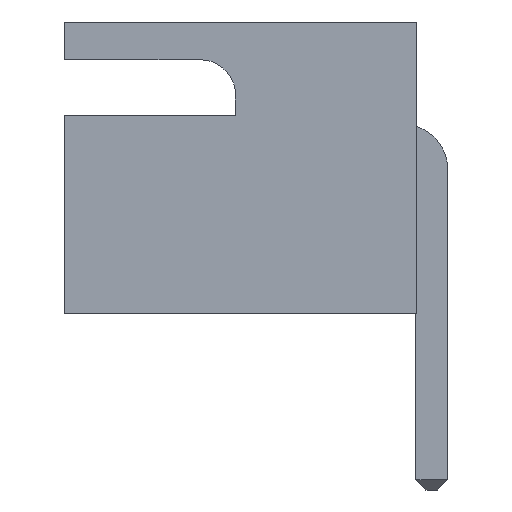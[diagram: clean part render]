
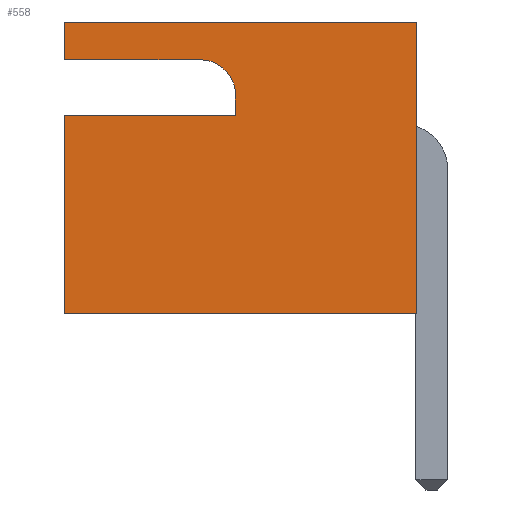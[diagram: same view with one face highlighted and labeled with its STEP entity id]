
A CAD part, left-side view. The second image highlights one B-rep face of the part: STEP entity #558.
In plain terms, the highlighted planar face has unit normal (-1, 0, 0).
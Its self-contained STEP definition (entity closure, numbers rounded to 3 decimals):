
#52 = ORIENTED_EDGE ( 'NONE', *, *, #2061, .F. ) ;
#341 = EDGE_CURVE ( 'NONE', #1587, #6786, #8000, .T. ) ;
#408 = DIRECTION ( 'NONE',  ( 0., 0., -1. ) ) ;
#518 = DIRECTION ( 'NONE',  ( 0., 1., 0. ) ) ;
#558 = ADVANCED_FACE ( 'NONE', ( #5979 ), #6561, .F. ) ;
#582 = CARTESIAN_POINT ( 'NONE',  ( -6.261, -4.011, 2.9 ) ) ;
#718 = AXIS2_PLACEMENT_3D ( 'NONE', #2449, #8464, #3728 ) ;
#878 = CARTESIAN_POINT ( 'NONE',  ( -6.261, 2.989, -2.9 ) ) ;
#976 = VERTEX_POINT ( 'NONE', #4726 ) ;
#1031 = LINE ( 'NONE', #4954, #5641 ) ;
#1063 = CARTESIAN_POINT ( 'NONE',  ( -6.261, -4.011, 2.9 ) ) ;
#1228 = CARTESIAN_POINT ( 'NONE',  ( -6.261, 2.989, 2.9 ) ) ;
#1587 = VERTEX_POINT ( 'NONE', #878 ) ;
#1620 = DIRECTION ( 'NONE',  ( 0., 0., 1. ) ) ;
#1700 = CARTESIAN_POINT ( 'NONE',  ( -6.261, 2.989, 1.05 ) ) ;
#1957 = VERTEX_POINT ( 'NONE', #7571 ) ;
#2061 = EDGE_CURVE ( 'NONE', #2130, #6124, #7001, .T. ) ;
#2078 = VECTOR ( 'NONE', #518, 1000. ) ;
#2108 = EDGE_CURVE ( 'NONE', #5640, #1957, #4652, .T. ) ;
#2130 = VERTEX_POINT ( 'NONE', #4697 ) ;
#2243 = EDGE_CURVE ( 'NONE', #976, #1957, #6725, .T. ) ;
#2381 = EDGE_LOOP ( 'NONE', ( #4901, #8181, #3275, #3907, #52, #4151, #2626, #7674, #3865 ) ) ;
#2449 = CARTESIAN_POINT ( 'NONE',  ( -6.261, 0.289, 1.45 ) ) ;
#2626 = ORIENTED_EDGE ( 'NONE', *, *, #341, .T. ) ;
#2732 = CARTESIAN_POINT ( 'NONE',  ( -6.261, -0.411, 1.45 ) ) ;
#2995 = EDGE_CURVE ( 'NONE', #3995, #6786, #7112, .T. ) ;
#3058 = DIRECTION ( 'NONE',  ( 0., -1., 0. ) ) ;
#3252 = LINE ( 'NONE', #1228, #7215 ) ;
#3254 = EDGE_CURVE ( 'NONE', #7623, #5640, #7064, .T. ) ;
#3275 = ORIENTED_EDGE ( 'NONE', *, *, #3254, .F. ) ;
#3366 = CARTESIAN_POINT ( 'NONE',  ( -6.261, -0.411, 1.05 ) ) ;
#3395 = VECTOR ( 'NONE', #1620, 1000. ) ;
#3495 = CARTESIAN_POINT ( 'NONE',  ( -6.261, 2.989, 2.9 ) ) ;
#3621 = VECTOR ( 'NONE', #5824, 1000. ) ;
#3728 = DIRECTION ( 'NONE',  ( 0., 1., 0. ) ) ;
#3865 = ORIENTED_EDGE ( 'NONE', *, *, #5624, .F. ) ;
#3907 = ORIENTED_EDGE ( 'NONE', *, *, #5534, .F. ) ;
#3995 = VERTEX_POINT ( 'NONE', #582 ) ;
#4151 = ORIENTED_EDGE ( 'NONE', *, *, #6259, .T. ) ;
#4652 = LINE ( 'NONE', #7309, #2078 ) ;
#4697 = CARTESIAN_POINT ( 'NONE',  ( -6.261, 2.989, 1.05 ) ) ;
#4726 = CARTESIAN_POINT ( 'NONE',  ( -6.261, 2.989, 2.9 ) ) ;
#4736 = DIRECTION ( 'NONE',  ( 0., 0., -1. ) ) ;
#4901 = ORIENTED_EDGE ( 'NONE', *, *, #2243, .T. ) ;
#4954 = CARTESIAN_POINT ( 'NONE',  ( -6.261, 2.989, 2.9 ) ) ;
#4975 = LINE ( 'NONE', #7671, #3395 ) ;
#5093 = DIRECTION ( 'NONE',  ( 0., 0., -1. ) ) ;
#5182 = VECTOR ( 'NONE', #3058, 1000. ) ;
#5534 = EDGE_CURVE ( 'NONE', #6124, #7623, #4975, .T. ) ;
#5624 = EDGE_CURVE ( 'NONE', #976, #3995, #3252, .T. ) ;
#5640 = VERTEX_POINT ( 'NONE', #8034 ) ;
#5641 = VECTOR ( 'NONE', #5093, 1000. ) ;
#5782 = VECTOR ( 'NONE', #408, 1000. ) ;
#5824 = DIRECTION ( 'NONE',  ( 0., -1., 0. ) ) ;
#5979 = FACE_OUTER_BOUND ( 'NONE', #2381, .T. ) ;
#6124 = VERTEX_POINT ( 'NONE', #3366 ) ;
#6259 = EDGE_CURVE ( 'NONE', #2130, #1587, #1031, .T. ) ;
#6561 = PLANE ( 'NONE',  #7727 ) ;
#6565 = DIRECTION ( 'NONE',  ( 0., -1., 0. ) ) ;
#6691 = DIRECTION ( 'NONE',  ( 1., 0., 0. ) ) ;
#6725 = LINE ( 'NONE', #3495, #8409 ) ;
#6786 = VERTEX_POINT ( 'NONE', #8739 ) ;
#7001 = LINE ( 'NONE', #1700, #5182 ) ;
#7064 = CIRCLE ( 'NONE', #718, 0.7 ) ;
#7112 = LINE ( 'NONE', #1063, #5782 ) ;
#7215 = VECTOR ( 'NONE', #6565, 1000. ) ;
#7234 = DIRECTION ( 'NONE',  ( 0., 1., 0. ) ) ;
#7289 = CARTESIAN_POINT ( 'NONE',  ( -6.261, 2.989, -2.9 ) ) ;
#7309 = CARTESIAN_POINT ( 'NONE',  ( -6.261, 2.989, 2.15 ) ) ;
#7571 = CARTESIAN_POINT ( 'NONE',  ( -6.261, 2.989, 2.15 ) ) ;
#7623 = VERTEX_POINT ( 'NONE', #2732 ) ;
#7671 = CARTESIAN_POINT ( 'NONE',  ( -6.261, -0.411, 1.45 ) ) ;
#7674 = ORIENTED_EDGE ( 'NONE', *, *, #2995, .F. ) ;
#7727 = AXIS2_PLACEMENT_3D ( 'NONE', #7892, #6691, #7234 ) ;
#7892 = CARTESIAN_POINT ( 'NONE',  ( -6.261, 2.989, 2.9 ) ) ;
#8000 = LINE ( 'NONE', #7289, #3621 ) ;
#8034 = CARTESIAN_POINT ( 'NONE',  ( -6.261, 0.289, 2.15 ) ) ;
#8181 = ORIENTED_EDGE ( 'NONE', *, *, #2108, .F. ) ;
#8409 = VECTOR ( 'NONE', #4736, 1000. ) ;
#8464 = DIRECTION ( 'NONE',  ( -1., 0., 0. ) ) ;
#8739 = CARTESIAN_POINT ( 'NONE',  ( -6.261, -4.011, -2.9 ) ) ;
